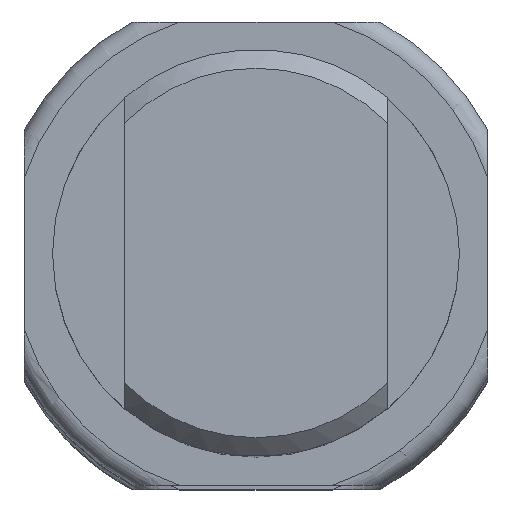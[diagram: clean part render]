
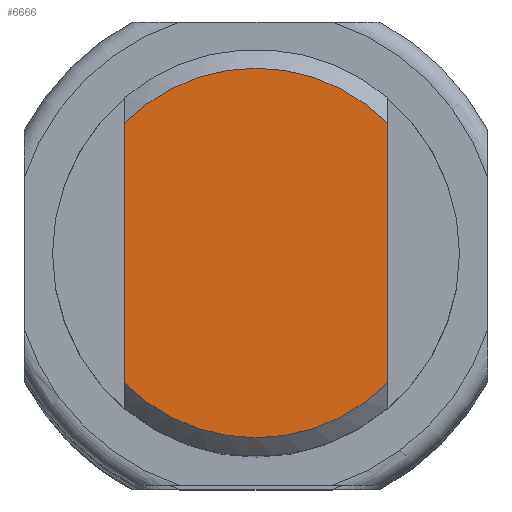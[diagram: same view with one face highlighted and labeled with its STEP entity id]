
A CAD part, top view. The second image highlights one B-rep face of the part: STEP entity #6666.
In plain terms, the highlighted planar face has unit normal (0, 0, 1) as drawn and (1, 0, 0) by its records, which use the part's own axes.
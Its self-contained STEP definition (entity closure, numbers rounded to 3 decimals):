
#300 = CARTESIAN_POINT ( 'NONE',  ( 43., -6.93, -7. ) ) ;
#320 = CARTESIAN_POINT ( 'NONE',  ( 43., 0., 0. ) ) ;
#321 = AXIS2_PLACEMENT_3D ( 'NONE', #7015, #1344, #5282 ) ;
#660 = ORIENTED_EDGE ( 'NONE', *, *, #6708, .F. ) ;
#730 = CARTESIAN_POINT ( 'NONE',  ( 43., 6.93, -7. ) ) ;
#759 = VERTEX_POINT ( 'NONE', #5073 ) ;
#975 = LINE ( 'NONE', #4493, #1168 ) ;
#1000 = VERTEX_POINT ( 'NONE', #730 ) ;
#1168 = VECTOR ( 'NONE', #2200, 1000. ) ;
#1261 = CARTESIAN_POINT ( 'NONE',  ( 43., 6.93, 7. ) ) ;
#1344 = DIRECTION ( 'NONE',  ( -1., 0., 0. ) ) ;
#2200 = DIRECTION ( 'NONE',  ( 0., 1., 0. ) ) ;
#2234 = CIRCLE ( 'NONE', #7351, 9.85 ) ;
#2408 = EDGE_CURVE ( 'NONE', #1000, #5741, #2234, .T. ) ;
#2789 = ORIENTED_EDGE ( 'NONE', *, *, #2408, .T. ) ;
#3063 = DIRECTION ( 'NONE',  ( 0., 0., 1. ) ) ;
#3291 = VECTOR ( 'NONE', #3954, 1000. ) ;
#3314 = CARTESIAN_POINT ( 'NONE',  ( 43., -12.858, -7. ) ) ;
#3592 = FACE_OUTER_BOUND ( 'NONE', #5115, .T. ) ;
#3609 = ORIENTED_EDGE ( 'NONE', *, *, #7267, .F. ) ;
#3620 = CARTESIAN_POINT ( 'NONE',  ( 43., 0., 0. ) ) ;
#3922 = LINE ( 'NONE', #3314, #3291 ) ;
#3954 = DIRECTION ( 'NONE',  ( 0., -1., 0. ) ) ;
#4183 = DIRECTION ( 'NONE',  ( 1., 0., 0. ) ) ;
#4261 = DIRECTION ( 'NONE',  ( 0., 0., 1. ) ) ;
#4305 = VERTEX_POINT ( 'NONE', #300 ) ;
#4493 = CARTESIAN_POINT ( 'NONE',  ( 43., -12.858, 7. ) ) ;
#4524 = EDGE_CURVE ( 'NONE', #759, #4305, #6984, .T. ) ;
#5073 = CARTESIAN_POINT ( 'NONE',  ( 43., -6.93, 7. ) ) ;
#5115 = EDGE_LOOP ( 'NONE', ( #2789, #660, #5250, #3609 ) ) ;
#5250 = ORIENTED_EDGE ( 'NONE', *, *, #4524, .T. ) ;
#5282 = DIRECTION ( 'NONE',  ( 0., 0., 1. ) ) ;
#5741 = VERTEX_POINT ( 'NONE', #1261 ) ;
#5875 = PLANE ( 'NONE',  #321 ) ;
#5902 = DIRECTION ( 'NONE',  ( 1., 0., 0. ) ) ;
#6666 = ADVANCED_FACE ( 'NONE', ( #3592 ), #5875, .F. ) ;
#6708 = EDGE_CURVE ( 'NONE', #759, #5741, #975, .T. ) ;
#6984 = CIRCLE ( 'NONE', #7320, 9.85 ) ;
#7015 = CARTESIAN_POINT ( 'NONE',  ( 43., 10.85, 0. ) ) ;
#7267 = EDGE_CURVE ( 'NONE', #1000, #4305, #3922, .T. ) ;
#7320 = AXIS2_PLACEMENT_3D ( 'NONE', #320, #4183, #4261 ) ;
#7351 = AXIS2_PLACEMENT_3D ( 'NONE', #3620, #5902, #3063 ) ;
